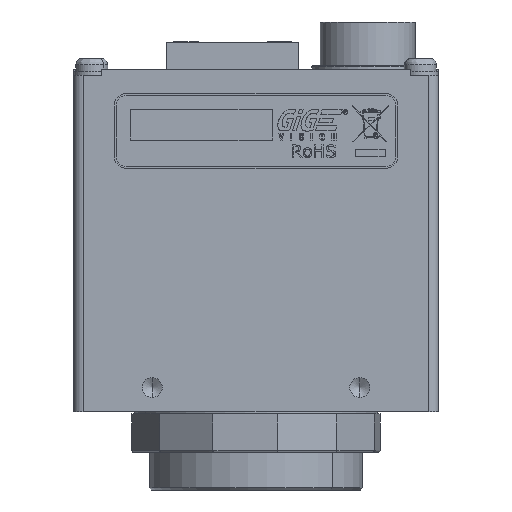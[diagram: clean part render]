
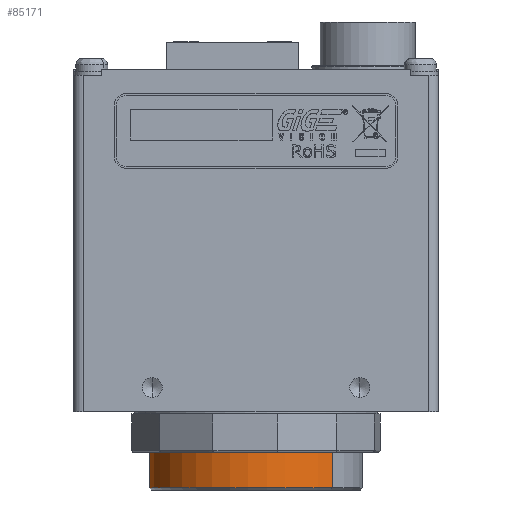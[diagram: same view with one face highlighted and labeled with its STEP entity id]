
A CAD part, front view. The second image highlights one B-rep face of the part: STEP entity #85171.
In plain terms, the highlighted cylindrical face has radius 13.335 mm (diameter 26.67 mm), a partial arc.
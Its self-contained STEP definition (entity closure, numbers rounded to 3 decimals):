
#2404 = CARTESIAN_POINT ( 'NONE',  ( -13.335, 0., 13.386 ) ) ;
#2515 = CARTESIAN_POINT ( 'NONE',  ( 13.335, 0., 13.386 ) ) ;
#3242 = VERTEX_POINT ( 'NONE', #74726 ) ;
#8417 = VERTEX_POINT ( 'NONE', #2404 ) ;
#27232 = DIRECTION ( 'NONE',  ( 0., 0., -1. ) ) ;
#36442 = CARTESIAN_POINT ( 'NONE',  ( 0., 0., 7.214 ) ) ;
#45955 = VECTOR ( 'NONE', #71193, 1000. ) ;
#49006 = ORIENTED_EDGE ( 'NONE', *, *, #111413, .F. ) ;
#50281 = DIRECTION ( 'NONE',  ( 1., 0., 0. ) ) ;
#71193 = DIRECTION ( 'NONE',  ( 0., 0., 1. ) ) ;
#71705 = DIRECTION ( 'NONE',  ( 1., 0., 0. ) ) ;
#74726 = CARTESIAN_POINT ( 'NONE',  ( 13.335, 0., 7.214 ) ) ;
#80787 = CIRCLE ( 'NONE', #99321, 13.335 ) ;
#81942 = CARTESIAN_POINT ( 'NONE',  ( -13.335, 0., 7.214 ) ) ;
#84726 = DIRECTION ( 'NONE',  ( 0., 0., 1. ) ) ;
#85171 = ADVANCED_FACE ( 'NONE', ( #170015 ), #122470, .T. ) ;
#87132 = ORIENTED_EDGE ( 'NONE', *, *, #166357, .T. ) ;
#88561 = EDGE_CURVE ( 'NONE', #3242, #163233, #162709, .T. ) ;
#91517 = AXIS2_PLACEMENT_3D ( 'NONE', #108633, #27232, #122213 ) ;
#99321 = AXIS2_PLACEMENT_3D ( 'NONE', #36442, #131223, #50281 ) ;
#102625 = EDGE_LOOP ( 'NONE', ( #49006, #87132, #108598, #132792 ) ) ;
#105796 = VERTEX_POINT ( 'NONE', #81942 ) ;
#108598 = ORIENTED_EDGE ( 'NONE', *, *, #88561, .T. ) ;
#108633 = CARTESIAN_POINT ( 'NONE',  ( 0., 0., 13.386 ) ) ;
#110064 = CIRCLE ( 'NONE', #91517, 13.335 ) ;
#111413 = EDGE_CURVE ( 'NONE', #105796, #8417, #153417, .T. ) ;
#115953 = CARTESIAN_POINT ( 'NONE',  ( 13.335, 0., 7.214 ) ) ;
#122213 = DIRECTION ( 'NONE',  ( 1., 0., 0. ) ) ;
#122470 = CYLINDRICAL_SURFACE ( 'NONE', #142203, 13.335 ) ;
#127499 = VECTOR ( 'NONE', #129484, 1000. ) ;
#129484 = DIRECTION ( 'NONE',  ( 0., 0., 1. ) ) ;
#131223 = DIRECTION ( 'NONE',  ( 0., 0., 1. ) ) ;
#132792 = ORIENTED_EDGE ( 'NONE', *, *, #136599, .T. ) ;
#136599 = EDGE_CURVE ( 'NONE', #163233, #8417, #110064, .T. ) ;
#137265 = CARTESIAN_POINT ( 'NONE',  ( -13.335, 0., 7.214 ) ) ;
#142203 = AXIS2_PLACEMENT_3D ( 'NONE', #164872, #84726, #71705 ) ;
#153417 = LINE ( 'NONE', #137265, #45955 ) ;
#162709 = LINE ( 'NONE', #115953, #127499 ) ;
#163233 = VERTEX_POINT ( 'NONE', #2515 ) ;
#164872 = CARTESIAN_POINT ( 'NONE',  ( 0., 0., 7.214 ) ) ;
#166357 = EDGE_CURVE ( 'NONE', #105796, #3242, #80787, .T. ) ;
#170015 = FACE_OUTER_BOUND ( 'NONE', #102625, .T. ) ;
